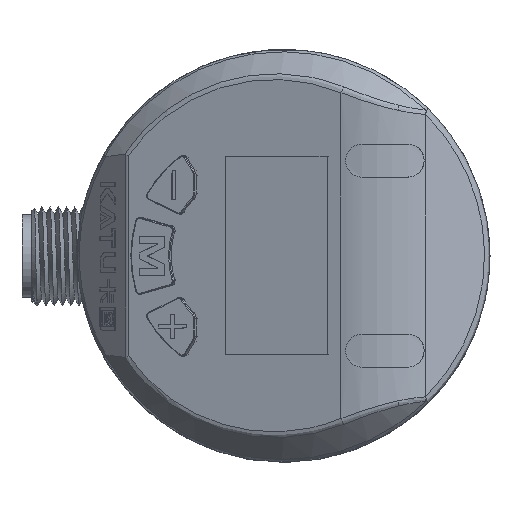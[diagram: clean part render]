
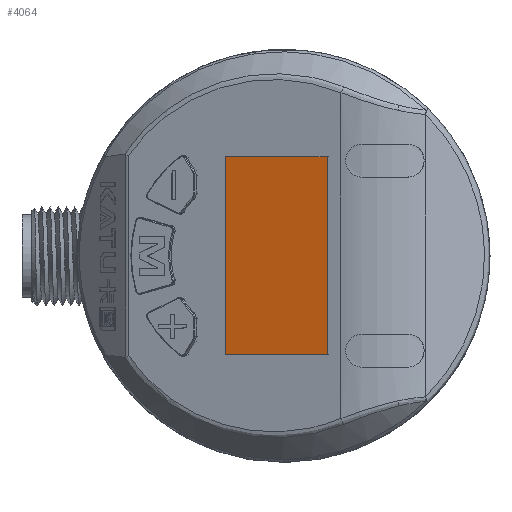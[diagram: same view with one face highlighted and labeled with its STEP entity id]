
A CAD part, top view. The second image highlights one B-rep face of the part: STEP entity #4064.
In plain terms, the highlighted planar face has unit normal (-0.342, 0, 0.94).
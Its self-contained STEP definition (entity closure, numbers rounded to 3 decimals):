
#1984=LINE('',#25025,#2740);
#1985=LINE('',#25028,#2741);
#1986=LINE('',#25030,#2742);
#1987=LINE('',#25032,#2743);
#2740=VECTOR('',#15223,1.);
#2741=VECTOR('',#15224,1.);
#2742=VECTOR('',#15225,1.);
#2743=VECTOR('',#15226,1.);
#3092=PLANE('',#12428);
#4064=ADVANCED_FACE('',(#4636),#3092,.T.);
#4636=FACE_OUTER_BOUND('',#5465,.T.);
#5465=EDGE_LOOP('',(#8649,#8650,#8651,#8652));
#8649=ORIENTED_EDGE('',*,*,#11130,.T.);
#8650=ORIENTED_EDGE('',*,*,#11131,.T.);
#8651=ORIENTED_EDGE('',*,*,#11132,.T.);
#8652=ORIENTED_EDGE('',*,*,#11133,.T.);
#9699=VERTEX_POINT('',#25026);
#9700=VERTEX_POINT('',#25027);
#9701=VERTEX_POINT('',#25029);
#9702=VERTEX_POINT('',#25031);
#11130=EDGE_CURVE('',#9699,#9700,#1984,.T.);
#11131=EDGE_CURVE('',#9700,#9701,#1985,.T.);
#11132=EDGE_CURVE('',#9701,#9702,#1986,.T.);
#11133=EDGE_CURVE('',#9702,#9699,#1987,.T.);
#12428=AXIS2_PLACEMENT_3D('',#25033,#15227,#15228);
#15223=DIRECTION('',(-0.94,0.,-0.342));
#15224=DIRECTION('',(0.,-1.,0.));
#15225=DIRECTION('',(0.94,0.,0.342));
#15226=DIRECTION('',(0.,1.,0.));
#15227=DIRECTION('',(-0.342,0.,0.94));
#15228=DIRECTION('',(-0.94,0.,-0.342));
#25025=CARTESIAN_POINT('',(45.306,12.006,121.2));
#25026=CARTESIAN_POINT('',(36.258,12.002,117.907));
#25027=CARTESIAN_POINT('',(23.939,11.997,113.423));
#25028=CARTESIAN_POINT('',(23.949,-15.759,113.427));
#25029=CARTESIAN_POINT('',(23.948,-11.997,113.426));
#25030=CARTESIAN_POINT('',(45.315,-11.988,121.203));
#25031=CARTESIAN_POINT('',(36.267,-11.992,117.91));
#25032=CARTESIAN_POINT('',(36.268,-15.753,117.91));
#25033=CARTESIAN_POINT('',(45.316,-15.75,121.204));
